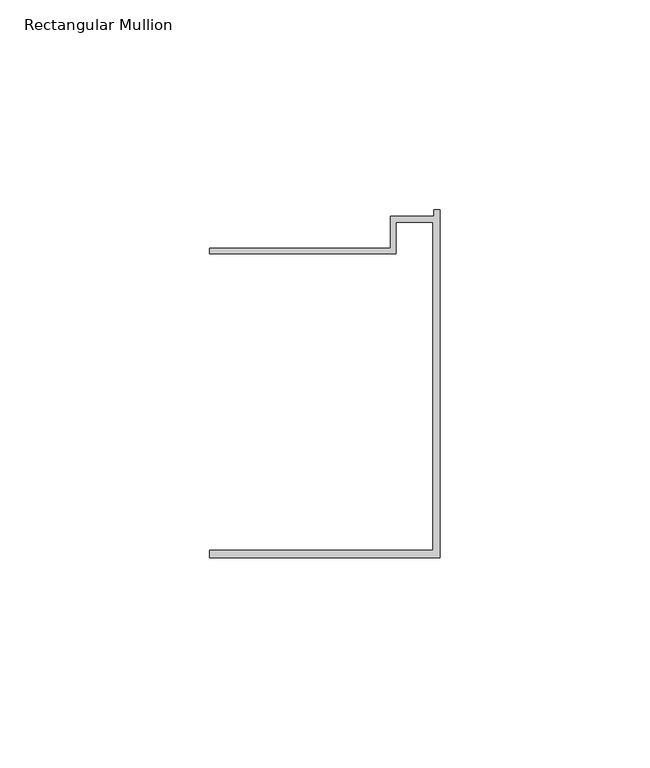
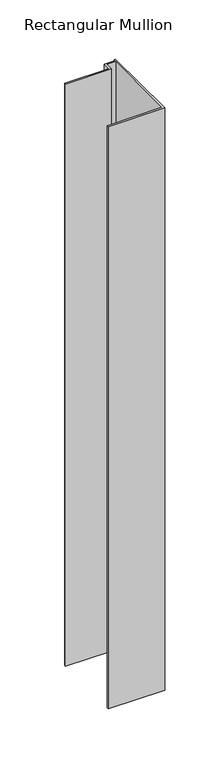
"""IFC4 building model written with IfcOpenShell, lengths in millimetres: member geometry, Rectangular Mullion : Danpal Bottom Mullion."""

from ifc_helpers import new_model, si_unit, frame, origin, place, context, project, spatial, polyline, outline, extrude, source, transform, mapped, element, save


def rectangular_mullion_358f1fe0(model_context):
    return source(origin(), model_context, "Body", "SweptSolid", [
        extrude(outline(polyline([(-54.8546474, 80.8144448), (-54.8546474, 82.2144448), (-11.7999842, 82.2144448), (-11.7999842, 89.8206003), (-1.4, 89.8206003), (-1.4, 91.3144448), (0.0, 91.3144448), (0.0, 8.4568509), (-54.8546474, 8.4568509), (-54.8546474, 10.2068341), (-1.6, 10.2068341), (-1.6, 88.4144116), (-10.3999842, 88.4144116), (-10.3999842, 80.8144448), (-54.8546474, 80.8144448)])), frame((0.0, 0.0, -600.0), z_axis=(0.0, 0.0, 1.0), x_axis=(1.0, 0.0, 0.0)), (0.0, 0.0, 1.0), 600.0),
    ])


if __name__ == "__main__":
    model = new_model("IFC4")
    model_context = context("Model", 3, world=origin())
    ifc_project = project(units=[si_unit("LENGTHUNIT", "METRE", prefix="MILLI")], contexts=[model_context])
    site = spatial("IfcSite", under=ifc_project)
    building = spatial("IfcBuilding", under=site)
    placement = place(None, origin())
    rectangular_mullion_shape = rectangular_mullion_358f1fe0(model_context)
    element("IfcMember", 1, ObjectType="Rectangular Mullion : Danpal Bottom Mullion", at=placement, inside=building, context=model_context, shape_type="MappedRepresentation", body=[
        mapped(rectangular_mullion_shape, transform((0.0, 0.0, 0.0), x_axis=(1.0, 0.0, 0.0), y_axis=(0.0, 1.0, 0.0), z_axis=(0.0, 0.0, 1.0))),
    ])
    save(model, "model.ifc")
